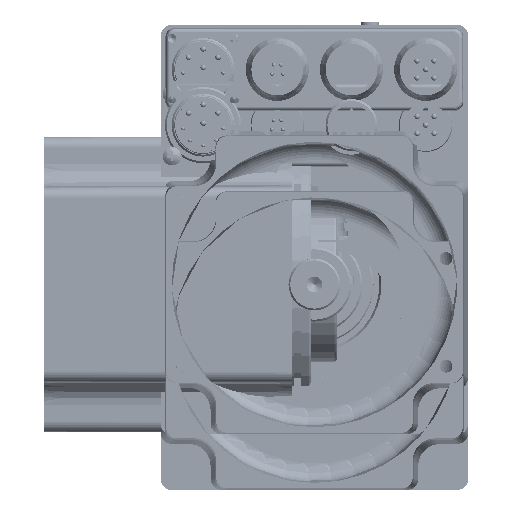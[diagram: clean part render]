
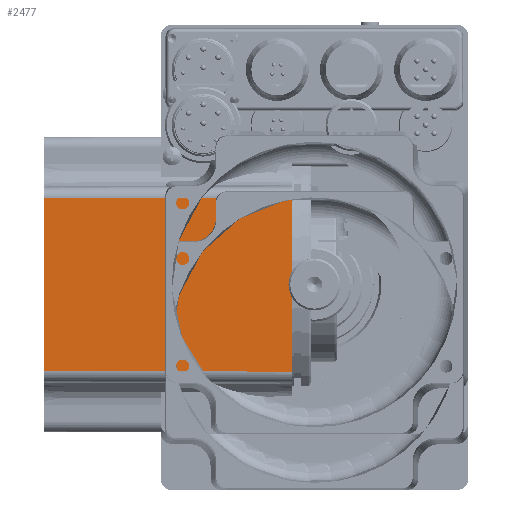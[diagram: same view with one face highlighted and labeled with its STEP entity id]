
A CAD part, front view. The second image highlights one B-rep face of the part: STEP entity #2477.
In plain terms, the highlighted planar face has unit normal (-0.003, -1, 0).
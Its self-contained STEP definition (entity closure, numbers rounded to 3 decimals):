
#2477 = ADVANCED_FACE( '', ( #6486 ), #6487, .T. );
#6486 = FACE_OUTER_BOUND( '', #14234, .T. );
#6487 = PLANE( '', #14235 );
#14234 = EDGE_LOOP( '', ( #30252, #30253, #30254, #30255 ) );
#14235 = AXIS2_PLACEMENT_3D( '', #30256, #30257, #30258 );
#30252 = ORIENTED_EDGE( '', *, *, #41105, .T. );
#30253 = ORIENTED_EDGE( '', *, *, #41034, .T. );
#30254 = ORIENTED_EDGE( '', *, *, #41173, .T. );
#30255 = ORIENTED_EDGE( '', *, *, #41494, .T. );
#30256 = CARTESIAN_POINT( '', ( -5., -40., 0. ) );
#30257 = DIRECTION( '', ( -0.003, -1., 0. ) );
#30258 = DIRECTION( '', ( 1., -0.003, 0. ) );
#41034 = EDGE_CURVE( '', #47528, #47526, #47529, .T. );
#41105 = EDGE_CURVE( '', #47650, #47528, #47651, .T. );
#41173 = EDGE_CURVE( '', #47526, #47761, #47762, .T. );
#41494 = EDGE_CURVE( '', #47761, #47650, #48263, .T. );
#47526 = VERTEX_POINT( '', #65780 );
#47528 = VERTEX_POINT( '', #65782 );
#47529 = LINE( '', #65783, #65784 );
#47650 = VERTEX_POINT( '', #66034 );
#47651 = LINE( '', #66035, #66036 );
#47761 = VERTEX_POINT( '', #66173 );
#47762 = LINE( '', #66174, #66175 );
#48263 = LINE( '', #67040, #67041 );
#65780 = CARTESIAN_POINT( '', ( -6., -39.997, 23.497 ) );
#65782 = CARTESIAN_POINT( '', ( -6., -39.997, -23.497 ) );
#65783 = CARTESIAN_POINT( '', ( -6., -39.997, 0. ) );
#65784 = VECTOR( '', #76558, 1000. );
#66034 = CARTESIAN_POINT( '', ( -73., -39.802, -23.302 ) );
#66035 = CARTESIAN_POINT( '', ( -4.991, -40., -23.5 ) );
#66036 = VECTOR( '', #76668, 1000. );
#66173 = CARTESIAN_POINT( '', ( -73., -39.802, 23.302 ) );
#66174 = CARTESIAN_POINT( '', ( -98.991, -39.727, 23.227 ) );
#66175 = VECTOR( '', #76774, 1000. );
#67040 = CARTESIAN_POINT( '', ( -73., -39.802, 0. ) );
#67041 = VECTOR( '', #77183, 1000. );
#76558 = DIRECTION( '', ( 0., 0., 1. ) );
#76668 = DIRECTION( '', ( 1., -0.003, -0.003 ) );
#76774 = DIRECTION( '', ( -1., 0.003, -0.003 ) );
#77183 = DIRECTION( '', ( 0., 0., -1. ) );
